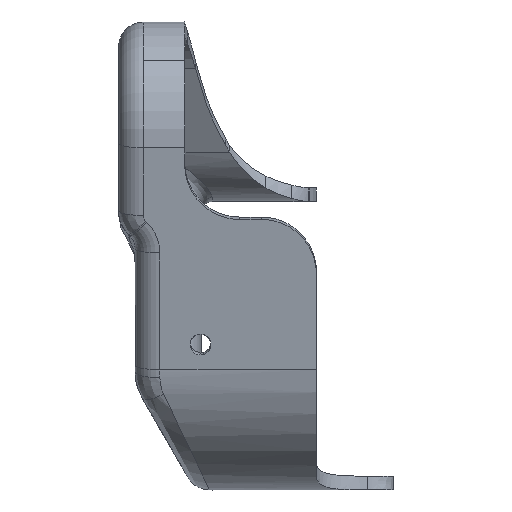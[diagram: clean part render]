
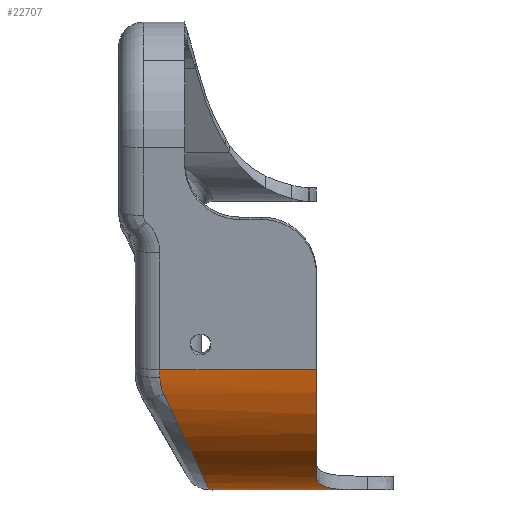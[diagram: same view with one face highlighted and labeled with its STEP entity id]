
A CAD part, left-side view. The second image highlights one B-rep face of the part: STEP entity #22707.
In plain terms, the highlighted cylindrical face has radius 26.5 mm (diameter 53 mm), a partial arc.
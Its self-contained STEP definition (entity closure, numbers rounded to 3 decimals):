
#22694=VECTOR('Line Direction',#22693,1.) ;
#21642=DIRECTION('Axis2P3D Direction',(0.,-1.,0.)) ;
#22688=DIRECTION('Axis2P3D Direction',(0.,1.,0.)) ;
#22689=DIRECTION('Axis2P3D XDirection',(0.643,0.,0.766)) ;
#22693=DIRECTION('Vector Direction',(0.,1.,0.)) ;
#20384=CARTESIAN_POINT('Vertex',(644.593,-540.761,350.545)) ;
#20609=CARTESIAN_POINT('Vertex',(644.593,-512.261,350.545)) ;
#21527=CARTESIAN_POINT('Vertex',(659.771,-540.761,331.)) ;
#21531=CARTESIAN_POINT('Control Point',(659.771,-540.761,331.)) ;
#21532=CARTESIAN_POINT('Control Point',(660.924,-540.761,330.479)) ;
#21533=CARTESIAN_POINT('Control Point',(662.135,-540.933,330.014)) ;
#21534=CARTESIAN_POINT('Control Point',(663.375,-541.312,329.63)) ;
#21535=CARTESIAN_POINT('Control Point',(665.087,-542.184,329.214)) ;
#21536=CARTESIAN_POINT('Control Point',(666.544,-543.434,328.967)) ;
#21537=CARTESIAN_POINT('Control Point',(666.967,-543.856,328.904)) ;
#21538=CARTESIAN_POINT('Control Point',(668.12,-545.191,328.756)) ;
#21539=CARTESIAN_POINT('Control Point',(668.957,-546.742,328.696)) ;
#21540=CARTESIAN_POINT('Control Point',(669.354,-547.832,328.678)) ;
#21541=CARTESIAN_POINT('Control Point',(669.592,-548.958,328.669)) ;
#21542=CARTESIAN_POINT('Control Point',(669.668,-550.094,328.666)) ;
#21543=CARTESIAN_POINT('Vertex',(669.668,-550.094,328.666)) ;
#21585=CARTESIAN_POINT('Control Point',(644.593,-540.761,350.545)) ;
#21586=CARTESIAN_POINT('Control Point',(645.487,-540.761,345.474)) ;
#21587=CARTESIAN_POINT('Control Point',(647.612,-540.761,340.619)) ;
#21588=CARTESIAN_POINT('Control Point',(650.902,-540.761,336.383)) ;
#21589=CARTESIAN_POINT('Control Point',(655.079,-540.761,333.122)) ;
#21590=CARTESIAN_POINT('Control Point',(659.771,-540.761,331.)) ;
#21605=CARTESIAN_POINT('Control Point',(644.593,-540.761,350.545)) ;
#21606=CARTESIAN_POINT('Control Point',(644.593,-512.261,350.545)) ;
#21638=CARTESIAN_POINT('Vertex',(644.89,-512.261,349.098)) ;
#21641=CARTESIAN_POINT('Axis2P3D Location',(670.691,-512.261,355.146)) ;
#21709=CARTESIAN_POINT('Control Point',(644.89,-512.261,349.098)) ;
#21710=CARTESIAN_POINT('Control Point',(644.98,-512.261,348.715)) ;
#21711=CARTESIAN_POINT('Control Point',(645.077,-512.286,348.333)) ;
#21712=CARTESIAN_POINT('Control Point',(645.181,-512.336,347.954)) ;
#21713=CARTESIAN_POINT('Control Point',(645.361,-512.46,347.34)) ;
#21714=CARTESIAN_POINT('Control Point',(645.553,-512.649,346.752)) ;
#21715=CARTESIAN_POINT('Control Point',(645.631,-512.733,346.524)) ;
#21716=CARTESIAN_POINT('Control Point',(645.709,-512.827,346.302)) ;
#21717=CARTESIAN_POINT('Control Point',(645.787,-512.931,346.086)) ;
#21718=CARTESIAN_POINT('Vertex',(645.787,-512.931,346.086)) ;
#21884=CARTESIAN_POINT('Vertex',(670.69,-521.29,328.646)) ;
#21888=CARTESIAN_POINT('Control Point',(670.69,-521.29,328.646)) ;
#21889=CARTESIAN_POINT('Control Point',(668.13,-521.29,328.646)) ;
#21890=CARTESIAN_POINT('Control Point',(665.571,-521.142,328.955)) ;
#21891=CARTESIAN_POINT('Control Point',(663.079,-520.845,329.573)) ;
#21892=CARTESIAN_POINT('Control Point',(658.64,-520.038,331.258)) ;
#21893=CARTESIAN_POINT('Control Point',(654.777,-518.822,333.794)) ;
#21894=CARTESIAN_POINT('Control Point',(653.124,-518.178,335.139)) ;
#21895=CARTESIAN_POINT('Control Point',(650.289,-516.83,337.95)) ;
#21896=CARTESIAN_POINT('Control Point',(648.072,-515.294,341.156)) ;
#21897=CARTESIAN_POINT('Control Point',(647.164,-514.53,342.749)) ;
#21898=CARTESIAN_POINT('Control Point',(646.402,-513.74,344.397)) ;
#21899=CARTESIAN_POINT('Control Point',(645.787,-512.931,346.086)) ;
#22663=CARTESIAN_POINT('Control Point',(670.69,-552.805,328.646)) ;
#22664=CARTESIAN_POINT('Control Point',(670.236,-552.214,328.646)) ;
#22665=CARTESIAN_POINT('Control Point',(669.906,-551.539,328.657)) ;
#22666=CARTESIAN_POINT('Control Point',(669.716,-550.821,328.664)) ;
#22667=CARTESIAN_POINT('Control Point',(669.668,-550.094,328.666)) ;
#22668=CARTESIAN_POINT('Vertex',(670.69,-552.805,328.646)) ;
#22687=CARTESIAN_POINT('Axis2P3D Location',(670.691,-512.577,355.146)) ;
#22692=CARTESIAN_POINT('Line Origine',(670.69,-525.777,328.646)) ;
#21643=AXIS2_PLACEMENT_3D('Circle Axis2P3D',#21641,#21642,$) ;
#22690=AXIS2_PLACEMENT_3D('Cylinder Axis2P3D',#22687,#22688,#22689) ;
#21545=EDGE_CURVE('',#21544,#21528,#21530,.F.) ;
#21591=EDGE_CURVE('',#20385,#21528,#21584,.T.) ;
#21607=EDGE_CURVE('',#20385,#20610,#21604,.T.) ;
#21645=EDGE_CURVE('',#21639,#20610,#21644,.F.) ;
#21720=EDGE_CURVE('',#21719,#21639,#21708,.F.) ;
#21900=EDGE_CURVE('',#21885,#21719,#21887,.T.) ;
#22670=EDGE_CURVE('',#21544,#22669,#22662,.F.) ;
#22696=EDGE_CURVE('',#22669,#21885,#22695,.T.) ;
#22698=ORIENTED_EDGE('',*,*,#21545,.T.) ;
#22699=ORIENTED_EDGE('',*,*,#21591,.F.) ;
#22700=ORIENTED_EDGE('',*,*,#21607,.T.) ;
#22701=ORIENTED_EDGE('',*,*,#21645,.F.) ;
#22702=ORIENTED_EDGE('',*,*,#21720,.F.) ;
#22703=ORIENTED_EDGE('',*,*,#21900,.F.) ;
#22704=ORIENTED_EDGE('',*,*,#22696,.F.) ;
#22705=ORIENTED_EDGE('',*,*,#22670,.F.) ;
#22695=LINE('Line',#22692,#22694) ;
#22707=ADVANCED_FACE('0112',(#22706),#22691,.T.) ;
#21644=CIRCLE('generated circle',#21643,26.5) ;
#22691=CYLINDRICAL_SURFACE('generated cylinder',#22690,26.5) ;
#20385=VERTEX_POINT('',#20384) ;
#20610=VERTEX_POINT('',#20609) ;
#21528=VERTEX_POINT('',#21527) ;
#21544=VERTEX_POINT('',#21543) ;
#21639=VERTEX_POINT('',#21638) ;
#21719=VERTEX_POINT('',#21718) ;
#21885=VERTEX_POINT('',#21884) ;
#22669=VERTEX_POINT('',#22668) ;
#21530=B_SPLINE_CURVE_WITH_KNOTS('',5,(#21531,#21532,#21533,#21534,#21535,#21536,#21537,#21538,#21539,#21540,#21541,#21542),.UNSPECIFIED.,.F.,.U.,(6,3,3,6),(0.,7.618,11.062,17.807),.UNSPECIFIED.) ;
#21584=B_SPLINE_CURVE_WITH_KNOTS('',5,(#21585,#21586,#21587,#21588,#21589,#21590),.UNSPECIFIED.,.F.,.U.,(6,6),(0.,23.318),.UNSPECIFIED.) ;
#21604=B_SPLINE_CURVE_WITH_KNOTS('',1,(#21605,#21606),.UNSPECIFIED.,.F.,.U.,(2,2),(-28.184,0.316),.UNSPECIFIED.) ;
#21708=B_SPLINE_CURVE_WITH_KNOTS('',5,(#21709,#21710,#21711,#21712,#21713,#21714,#21715,#21716,#21717),.UNSPECIFIED.,.F.,.U.,(6,3,6),(31.265,34.79,37.097),.UNSPECIFIED.) ;
#21887=B_SPLINE_CURVE_WITH_KNOTS('',5,(#21888,#21889,#21890,#21891,#21892,#21893,#21894,#21895,#21896,#21897,#21898,#21899),.UNSPECIFIED.,.F.,.U.,(6,3,3,6),(47.883,63.606,77.368,89.804),.UNSPECIFIED.) ;
#22662=B_SPLINE_CURVE_WITH_KNOTS('',4,(#22663,#22664,#22665,#22666,#22667),.UNSPECIFIED.,.F.,.U.,(5,5),(0.,3.497),.UNSPECIFIED.) ;
#22697=EDGE_LOOP('',(#22698,#22699,#22700,#22701,#22702,#22703,#22704,#22705)) ;
#22706=FACE_OUTER_BOUND('',#22697,.T.) ;
